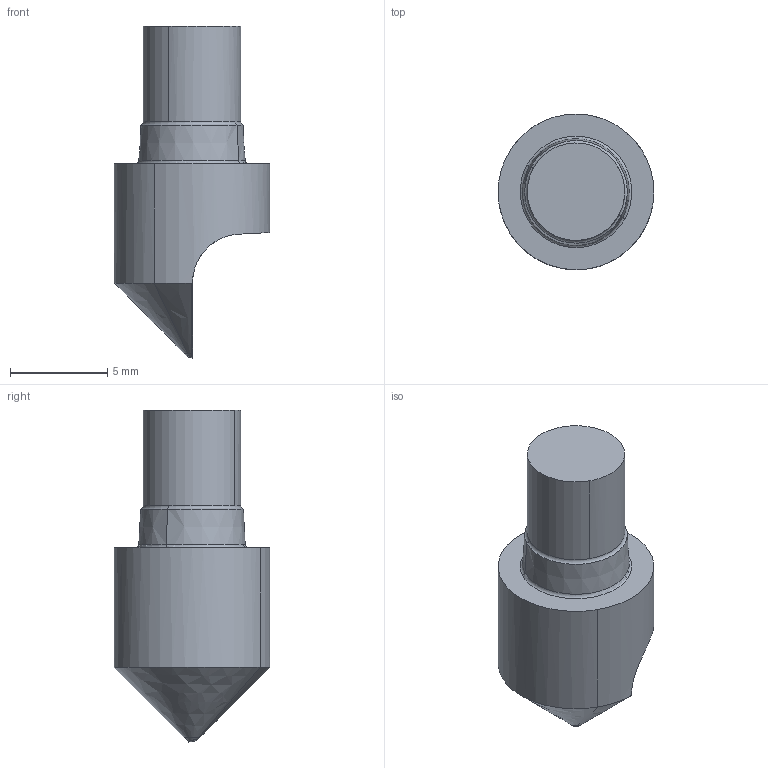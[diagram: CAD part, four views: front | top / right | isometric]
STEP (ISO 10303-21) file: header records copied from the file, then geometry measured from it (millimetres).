
FILE_DESCRIPTION(('CATIA V5 STEP','CAx-IF Rec.Pracs.--- Model Styling and Organization---1.2---2011-12-15'),'2;1');
FILE_NAME('C:\Users\natalyab\Downloads\MM EPG080_90-F50-1T05_D_6.stp','2017-10-24T12:17:13+00:00',('none'),('none'),'CATIA Version 5 Release 21 SP 5 (IN-10)','CATIA V5 STEP AP214','none');
FILE_SCHEMA(('AUTOMOTIVE_DESIGN { 1 0 10303 214 1 1 1 1 }'));
Length unit declared in the file: millimetre
Products named in the file (1): MM EPG080/90-F32-1T05 
Bounding box: 8.02 x 8.02 x 17.1 mm (x, y, z)
Volume: 438.9 mm3; surface area: 375.6 mm2
Topology: 2 solids, 2 shells, 26 faces, 66 edges, 46 vertices
Faces by surface type: plane 9, revolution 6, cylinder 5, torus 4, cone 2
Entity records: 1194 total; most frequent: CARTESIAN_POINT 518, ORIENTED_EDGE 126, DIRECTION 97, EDGE_CURVE 63, AXIS2_PLACEMENT_3D 43, VERTEX_POINT 42, VECTOR 27, EDGE_LOOP 27
